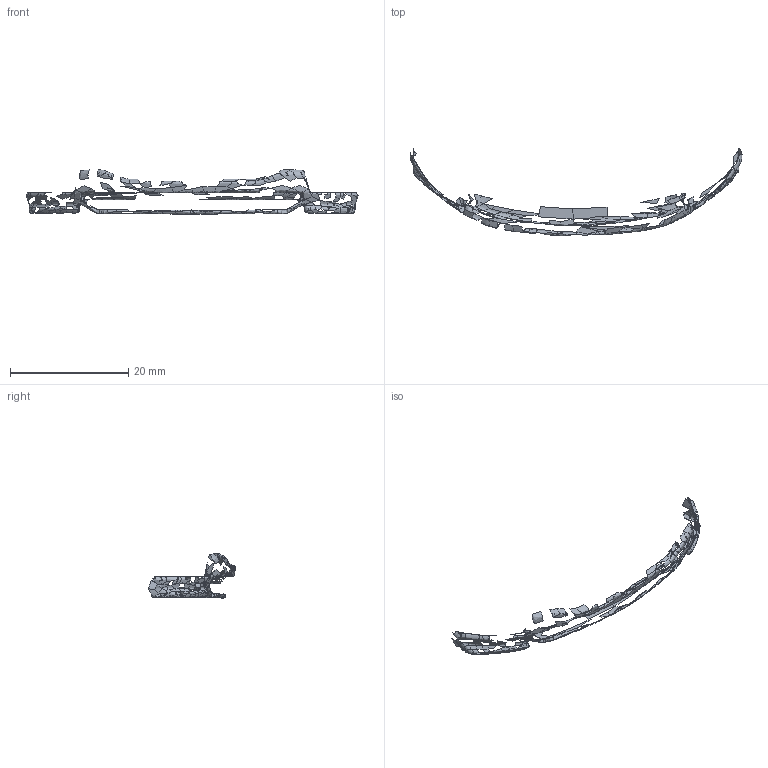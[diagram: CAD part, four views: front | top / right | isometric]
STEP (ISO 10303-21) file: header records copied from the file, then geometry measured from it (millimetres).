
FILE_DESCRIPTION(/* description */ (''),/* implementation_level */ '2;1');
FILE_NAME(/* name */ 'ranger front lip',/* time_stamp */ '2021-05-21T08:01:37-6:00',/* author */ ('Ben'),/* organization */ ('ASUSWX'),/* preprocessor_version */ 'InStep v3',/* originating_system */ 'ASUSWX',/* authorisation */ '');
FILE_SCHEMA (('AUTOMOTIVE_DESIGN { 1 0 10303 214 1 1 1 1 }'));
Length unit declared in the file: centimetre
Bounding box: 56.23 x 14.84 x 7.46 mm (x, y, z)
Surface area: 317.2 mm2 (no closed solid volume)
Topology: 0 solids, 19 shells, 243 faces, 698 edges, 441 vertices
Faces by surface type: bspline 243
Entity records: 401207 total; most frequent: CARTESIAN_POINT 394909, ORIENTED_EDGE 1880, B_SPLINE_CURVE_WITH_KNOTS 995, EDGE_CURVE 995, VERTEX_POINT 525, B_SPLINE_SURFACE_WITH_KNOTS 470, EDGE_LOOP 470, FACE_BOUND 470
